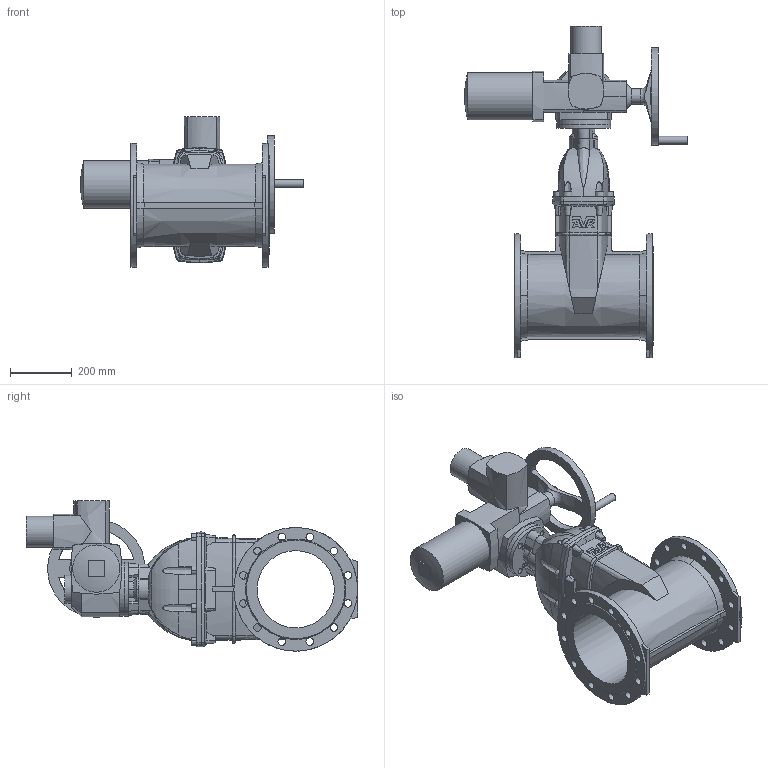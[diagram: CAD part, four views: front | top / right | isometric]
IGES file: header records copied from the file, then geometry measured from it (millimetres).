
Start section: SolidWorks IGES file using analytic representation for surfaces
Global section: file name: D:\Arthur\For Will\Finished\O_15_72_DN250 with AUMA\O_15_72_DN250_00_iges with AUMA.IGS; native system: SolidWorks 2012; preprocessor: SolidWorks 2012; author: aran; date: 150611.153932; units: millimetre
Bounding box: 721 x 1071 x 486 mm (x, y, z)
Surface area: 2101558.9 mm2 (no closed solid volume)
Topology: 0 solids, 0 shells, 431 faces, 2330 edges, 2242 vertices
Faces by surface type: revolution 267, bspline 164
